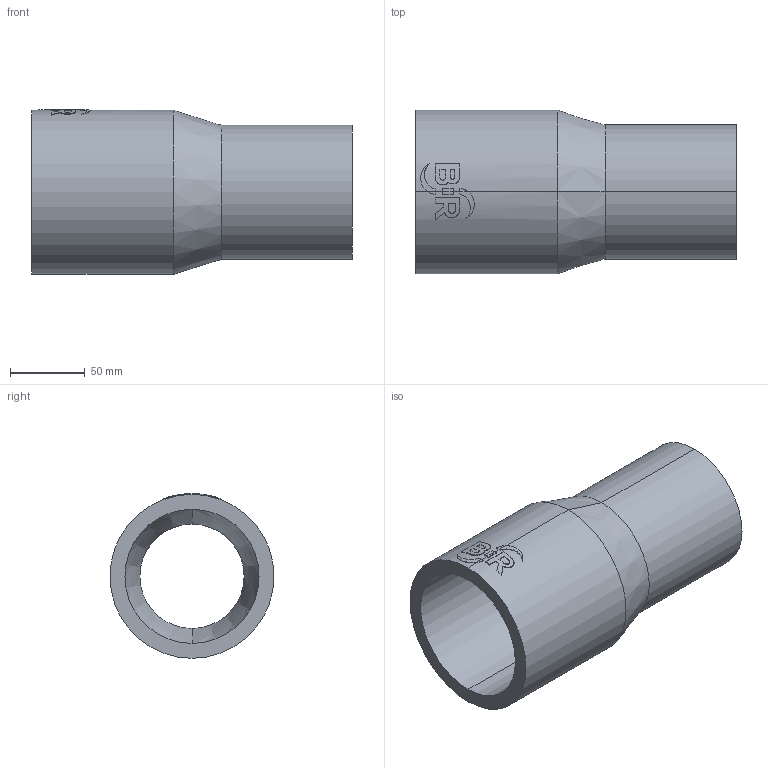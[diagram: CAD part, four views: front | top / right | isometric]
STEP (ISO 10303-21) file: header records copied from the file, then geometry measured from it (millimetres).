
FILE_DESCRIPTION (( 'STEP AP214' ), '1' );
FILE_NAME ('2323141315.STEP', '2018-07-20T11:48:30', ( '' ), ( '' ), 'SwSTEP 2.0', 'SolidWorks 2017', '' );
FILE_SCHEMA (( 'AUTOMOTIVE_DESIGN' ));
Length unit declared in the file: millimetre
Products named in the file (1): 2323141315
Bounding box: 215 x 110 x 110.46 mm (x, y, z)
Volume: 614155 mm3; surface area: 128591.1 mm2
Topology: 1 solids, 1 shells, 63 faces, 160 edges, 104 vertices
Faces by surface type: cylinder 31, plane 28, cone 4
Entity records: 3182 total; most frequent: CARTESIAN_POINT 973, ORIENTED_EDGE 320, DIRECTION 296, EDGE_CURVE 160, AXIS2_PLACEMENT_3D 112, VERTEX_POINT 104, VECTOR 72, LINE 72
